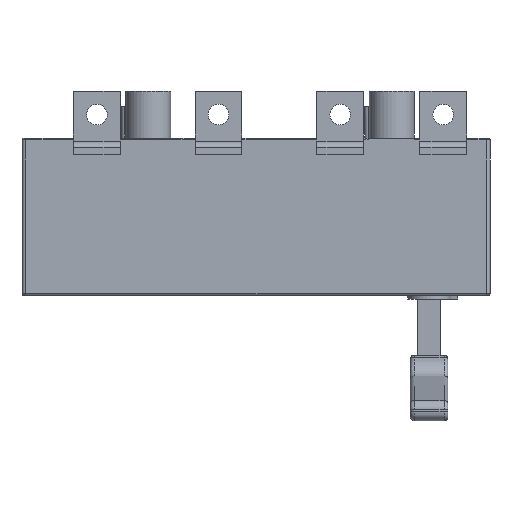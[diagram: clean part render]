
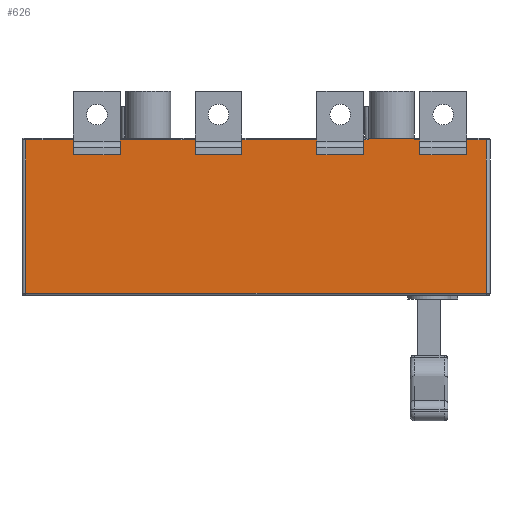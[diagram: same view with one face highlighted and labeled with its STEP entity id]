
A CAD part, front view. The second image highlights one B-rep face of the part: STEP entity #626.
In plain terms, the highlighted planar face has unit normal (0, -1, 0).
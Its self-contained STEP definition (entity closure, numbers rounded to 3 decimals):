
#190=PLANE('',#5526);
#626=ADVANCED_FACE('',(#958),#190,.T.);
#958=FACE_OUTER_BOUND('',#1321,.T.);
#1321=EDGE_LOOP('',(#3460,#3461,#3462,#3463,#3464,#3465,#3466,#3467,#3468,
#3469,#3470,#3471,#3472,#3473,#3474,#3475,#3476,#3477,#3478,#3479,#3480,
#3481,#3482,#3483,#3484,#3485,#3486,#3487,#3488,#3489,#3490,#3491,#3492,
#3493));
#1352=LINE('',#7117,#1777);
#1360=LINE('',#7137,#1785);
#1364=LINE('',#7144,#1789);
#1378=LINE('',#7194,#1803);
#1398=LINE('',#7243,#1823);
#1399=LINE('',#7245,#1824);
#1409=LINE('',#7283,#1834);
#1418=LINE('',#7307,#1843);
#1426=LINE('',#7322,#1851);
#1440=LINE('',#7372,#1865);
#1449=LINE('',#7396,#1874);
#1457=LINE('',#7411,#1882);
#1598=LINE('',#7947,#2023);
#1601=LINE('',#7957,#2026);
#1629=LINE('',#8142,#2054);
#1634=LINE('',#8159,#2059);
#1635=LINE('',#8161,#2060);
#1659=LINE('',#8288,#2084);
#1666=LINE('',#8337,#2091);
#1698=LINE('',#8437,#2123);
#1704=LINE('',#8449,#2129);
#1715=LINE('',#8476,#2140);
#1728=LINE('',#8505,#2153);
#1729=LINE('',#8507,#2154);
#1739=LINE('',#8525,#2164);
#1741=LINE('',#8531,#2166);
#1743=LINE('',#8537,#2168);
#1745=LINE('',#8543,#2170);
#1752=LINE('',#8555,#2177);
#1753=LINE('',#8556,#2178);
#1754=LINE('',#8557,#2179);
#1755=LINE('',#8558,#2180);
#1756=LINE('',#8559,#2181);
#1757=LINE('',#8560,#2182);
#1777=VECTOR('',#5589,1.);
#1785=VECTOR('',#5605,1.);
#1789=VECTOR('',#5613,1.);
#1803=VECTOR('',#5659,1.);
#1823=VECTOR('',#5705,1.);
#1824=VECTOR('',#5708,1.);
#1834=VECTOR('',#5742,1.);
#1843=VECTOR('',#5765,1.);
#1851=VECTOR('',#5779,1.);
#1865=VECTOR('',#5825,1.);
#1874=VECTOR('',#5848,1.);
#1882=VECTOR('',#5862,1.);
#2023=VECTOR('',#6443,1.);
#2026=VECTOR('',#6452,1.);
#2054=VECTOR('',#6598,1.);
#2059=VECTOR('',#6621,1.);
#2060=VECTOR('',#6624,1.);
#2084=VECTOR('',#6764,1.);
#2091=VECTOR('',#6785,1.);
#2123=VECTOR('',#6885,1.);
#2129=VECTOR('',#6897,1.);
#2140=VECTOR('',#6924,1.);
#2153=VECTOR('',#6967,1.);
#2154=VECTOR('',#6970,1.);
#2164=VECTOR('',#6992,1.);
#2166=VECTOR('',#6998,1.);
#2168=VECTOR('',#7004,1.);
#2170=VECTOR('',#7010,1.);
#2177=VECTOR('',#7023,1.);
#2178=VECTOR('',#7024,1.);
#2179=VECTOR('',#7025,1.);
#2180=VECTOR('',#7026,1.);
#2181=VECTOR('',#7027,1.);
#2182=VECTOR('',#7028,1.);
#3460=ORIENTED_EDGE('',*,*,#4180,.F.);
#3461=ORIENTED_EDGE('',*,*,#4199,.F.);
#3462=ORIENTED_EDGE('',*,*,#4718,.T.);
#3463=ORIENTED_EDGE('',*,*,#4710,.T.);
#3464=ORIENTED_EDGE('',*,*,#4535,.F.);
#3465=ORIENTED_EDGE('',*,*,#4525,.T.);
#3466=ORIENTED_EDGE('',*,*,#4534,.T.);
#3467=ORIENTED_EDGE('',*,*,#4689,.T.);
#3468=ORIENTED_EDGE('',*,*,#4719,.F.);
#3469=ORIENTED_EDGE('',*,*,#4070,.F.);
#3470=ORIENTED_EDGE('',*,*,#4057,.T.);
#3471=ORIENTED_EDGE('',*,*,#4066,.F.);
#3472=ORIENTED_EDGE('',*,*,#4720,.T.);
#3473=ORIENTED_EDGE('',*,*,#4690,.T.);
#3474=ORIENTED_EDGE('',*,*,#4661,.T.);
#3475=ORIENTED_EDGE('',*,*,#4654,.F.);
#3476=ORIENTED_EDGE('',*,*,#4590,.F.);
#3477=ORIENTED_EDGE('',*,*,#4675,.T.);
#3478=ORIENTED_EDGE('',*,*,#4603,.T.);
#3479=ORIENTED_EDGE('',*,*,#4701,.T.);
#3480=ORIENTED_EDGE('',*,*,#4453,.F.);
#3481=ORIENTED_EDGE('',*,*,#4118,.T.);
#3482=ORIENTED_EDGE('',*,*,#4094,.T.);
#3483=ORIENTED_EDGE('',*,*,#4119,.T.);
#3484=ORIENTED_EDGE('',*,*,#4458,.T.);
#3485=ORIENTED_EDGE('',*,*,#4704,.T.);
#3486=ORIENTED_EDGE('',*,*,#4721,.F.);
#3487=ORIENTED_EDGE('',*,*,#4148,.F.);
#3488=ORIENTED_EDGE('',*,*,#4137,.F.);
#3489=ORIENTED_EDGE('',*,*,#4156,.F.);
#3490=ORIENTED_EDGE('',*,*,#4722,.T.);
#3491=ORIENTED_EDGE('',*,*,#4707,.T.);
#3492=ORIENTED_EDGE('',*,*,#4723,.F.);
#3493=ORIENTED_EDGE('',*,*,#4191,.F.);
#3597=VERTEX_POINT('',#7118);
#3598=VERTEX_POINT('',#7119);
#3604=VERTEX_POINT('',#7136);
#3605=VERTEX_POINT('',#7140);
#3621=VERTEX_POINT('',#7183);
#3624=VERTEX_POINT('',#7189);
#3626=VERTEX_POINT('',#7195);
#3627=VERTEX_POINT('',#7196);
#3653=VERTEX_POINT('',#7272);
#3656=VERTEX_POINT('',#7278);
#3658=VERTEX_POINT('',#7284);
#3659=VERTEX_POINT('',#7285);
#3685=VERTEX_POINT('',#7361);
#3688=VERTEX_POINT('',#7367);
#3690=VERTEX_POINT('',#7373);
#3691=VERTEX_POINT('',#7374);
#3865=VERTEX_POINT('',#7948);
#3868=VERTEX_POINT('',#7956);
#3896=VERTEX_POINT('',#8035);
#3903=VERTEX_POINT('',#8070);
#3913=VERTEX_POINT('',#8097);
#3917=VERTEX_POINT('',#8139);
#3966=VERTEX_POINT('',#8287);
#3967=VERTEX_POINT('',#8289);
#3974=VERTEX_POINT('',#8319);
#3977=VERTEX_POINT('',#8336);
#4012=VERTEX_POINT('',#8438);
#4015=VERTEX_POINT('',#8450);
#4023=VERTEX_POINT('',#8504);
#4024=VERTEX_POINT('',#8508);
#4027=VERTEX_POINT('',#8530);
#4029=VERTEX_POINT('',#8536);
#4030=VERTEX_POINT('',#8538);
#4032=VERTEX_POINT('',#8544);
#4057=EDGE_CURVE('',#3597,#3598,#1352,.T.);
#4066=EDGE_CURVE('',#3604,#3598,#1360,.T.);
#4070=EDGE_CURVE('',#3597,#3605,#1364,.T.);
#4094=EDGE_CURVE('',#3626,#3627,#1378,.T.);
#4118=EDGE_CURVE('',#3624,#3626,#1398,.T.);
#4119=EDGE_CURVE('',#3627,#3621,#1399,.T.);
#4137=EDGE_CURVE('',#3658,#3659,#1409,.T.);
#4148=EDGE_CURVE('',#3659,#3656,#1418,.T.);
#4156=EDGE_CURVE('',#3653,#3658,#1426,.T.);
#4180=EDGE_CURVE('',#3690,#3691,#1440,.T.);
#4191=EDGE_CURVE('',#3691,#3688,#1449,.T.);
#4199=EDGE_CURVE('',#3685,#3690,#1457,.T.);
#4453=EDGE_CURVE('',#3624,#3865,#1598,.T.);
#4458=EDGE_CURVE('',#3621,#3868,#1601,.T.);
#4525=EDGE_CURVE('',#3917,#3913,#1629,.T.);
#4534=EDGE_CURVE('',#3913,#3896,#1634,.T.);
#4535=EDGE_CURVE('',#3917,#3903,#1635,.T.);
#4590=EDGE_CURVE('',#3966,#3967,#1659,.T.);
#4603=EDGE_CURVE('',#3974,#3977,#1666,.T.);
#4654=EDGE_CURVE('',#3967,#4012,#1698,.T.);
#4661=EDGE_CURVE('',#4015,#4012,#1704,.T.);
#4675=EDGE_CURVE('',#3966,#3974,#1715,.T.);
#4689=EDGE_CURVE('',#3896,#4023,#1728,.T.);
#4690=EDGE_CURVE('',#4024,#4015,#1729,.T.);
#4701=EDGE_CURVE('',#3977,#3865,#1739,.T.);
#4704=EDGE_CURVE('',#3868,#4027,#1741,.T.);
#4707=EDGE_CURVE('',#4030,#4029,#1743,.T.);
#4710=EDGE_CURVE('',#4032,#3903,#1745,.T.);
#4718=EDGE_CURVE('',#3685,#4032,#1752,.T.);
#4719=EDGE_CURVE('',#3605,#4023,#1753,.T.);
#4720=EDGE_CURVE('',#3604,#4024,#1754,.T.);
#4721=EDGE_CURVE('',#3656,#4027,#1755,.T.);
#4722=EDGE_CURVE('',#3653,#4030,#1756,.T.);
#4723=EDGE_CURVE('',#3688,#4029,#1757,.T.);
#5526=AXIS2_PLACEMENT_3D('',#8561,#7029,#7030);
#5589=DIRECTION('',(-1.,0.,0.));
#5605=DIRECTION('',(0.,0.,-1.));
#5613=DIRECTION('',(0.,0.,1.));
#5659=DIRECTION('',(-1.,0.,0.));
#5705=DIRECTION('',(0.,0.,-1.));
#5708=DIRECTION('',(0.,0.,1.));
#5742=DIRECTION('',(1.,0.,0.));
#5765=DIRECTION('',(0.,0.,1.));
#5779=DIRECTION('',(0.,0.,-1.));
#5825=DIRECTION('',(1.,0.,0.));
#5848=DIRECTION('',(0.,0.,1.));
#5862=DIRECTION('',(0.,0.,-1.));
#6443=DIRECTION('',(0.,0.,1.));
#6452=DIRECTION('',(0.,0.,1.));
#6598=DIRECTION('',(1.,0.,0.));
#6621=DIRECTION('',(0.,0.,1.));
#6624=DIRECTION('',(0.,0.,1.));
#6764=DIRECTION('',(0.,0.,-1.));
#6785=DIRECTION('',(0.,0.,-1.));
#6885=DIRECTION('',(1.,0.,0.));
#6897=DIRECTION('',(0.,0.,1.));
#6924=DIRECTION('',(-1.,0.,0.));
#6967=DIRECTION('',(-1.,0.,0.));
#6970=DIRECTION('',(-1.,0.,0.));
#6992=DIRECTION('',(-1.,0.,0.));
#6998=DIRECTION('',(-1.,0.,0.));
#7004=DIRECTION('',(-1.,0.,0.));
#7010=DIRECTION('',(-1.,0.,0.));
#7023=DIRECTION('',(0.,0.,1.));
#7024=DIRECTION('',(0.,0.,1.));
#7025=DIRECTION('',(0.,0.,1.));
#7026=DIRECTION('',(0.,0.,1.));
#7027=DIRECTION('',(0.,0.,1.));
#7028=DIRECTION('',(0.,0.,1.));
#7029=DIRECTION('',(0.,-1.,0.));
#7030=DIRECTION('',(1.,0.,0.));
#7117=CARTESIAN_POINT('',(40.,-52.5,-9.));
#7118=CARTESIAN_POINT('',(40.,-52.5,-9.));
#7119=CARTESIAN_POINT('',(15.,-52.5,-9.));
#7136=CARTESIAN_POINT('',(15.,-52.5,-5.));
#7137=CARTESIAN_POINT('',(15.,-52.5,-9.));
#7140=CARTESIAN_POINT('',(40.,-52.5,-5.));
#7144=CARTESIAN_POINT('',(40.,-52.5,-9.));
#7183=CARTESIAN_POINT('',(-40.,-52.5,-5.));
#7189=CARTESIAN_POINT('',(-15.,-52.5,-5.));
#7194=CARTESIAN_POINT('',(-15.,-52.5,-9.));
#7195=CARTESIAN_POINT('',(-15.,-52.5,-9.));
#7196=CARTESIAN_POINT('',(-40.,-52.5,-9.));
#7243=CARTESIAN_POINT('',(-15.,-52.5,-9.));
#7245=CARTESIAN_POINT('',(-40.,-52.5,-9.));
#7272=CARTESIAN_POINT('',(-105.,-52.5,-5.));
#7278=CARTESIAN_POINT('',(-80.,-52.5,-5.));
#7283=CARTESIAN_POINT('',(-80.,-52.5,-9.));
#7284=CARTESIAN_POINT('',(-105.,-52.5,-9.));
#7285=CARTESIAN_POINT('',(-80.,-52.5,-9.));
#7307=CARTESIAN_POINT('',(-80.,-52.5,-9.));
#7322=CARTESIAN_POINT('',(-105.,-52.5,-9.));
#7361=CARTESIAN_POINT('',(-170.,-52.5,-5.));
#7367=CARTESIAN_POINT('',(-145.,-52.5,-5.));
#7372=CARTESIAN_POINT('',(-157.5,-52.5,-9.));
#7373=CARTESIAN_POINT('',(-170.,-52.5,-9.));
#7374=CARTESIAN_POINT('',(-145.,-52.5,-9.));
#7396=CARTESIAN_POINT('',(-145.,-52.5,-9.));
#7411=CARTESIAN_POINT('',(-170.,-52.5,-9.));
#7947=CARTESIAN_POINT('',(-15.,-52.5,-9.));
#7948=CARTESIAN_POINT('',(-15.,-52.5,-1.));
#7956=CARTESIAN_POINT('',(-40.,-52.5,-1.));
#7957=CARTESIAN_POINT('',(-40.,-52.5,-9.));
#8035=CARTESIAN_POINT('',(50.5,-52.5,-1.));
#8070=CARTESIAN_POINT('',(-195.5,-52.5,-1.));
#8097=CARTESIAN_POINT('',(50.5,-52.5,-83.));
#8139=CARTESIAN_POINT('',(-195.5,-52.5,-83.));
#8142=CARTESIAN_POINT('',(-12.,-52.5,-83.));
#8159=CARTESIAN_POINT('',(50.5,-52.5,-84.));
#8161=CARTESIAN_POINT('',(-195.5,-52.5,-84.));
#8287=CARTESIAN_POINT('',(-12.,-52.5,17.));
#8288=CARTESIAN_POINT('',(-12.,-52.5,25.));
#8289=CARTESIAN_POINT('',(-12.,-52.5,0.));
#8319=CARTESIAN_POINT('',(-12.5,-52.5,17.));
#8336=CARTESIAN_POINT('',(-12.5,-52.5,-1.));
#8337=CARTESIAN_POINT('',(-12.5,-52.5,4.));
#8437=CARTESIAN_POINT('',(50.5,-52.5,0.));
#8438=CARTESIAN_POINT('',(12.,-52.5,0.));
#8449=CARTESIAN_POINT('',(12.,-52.5,4.));
#8450=CARTESIAN_POINT('',(12.,-52.5,-1.));
#8476=CARTESIAN_POINT('',(7.5,-52.5,17.));
#8504=CARTESIAN_POINT('',(40.,-52.5,-1.));
#8505=CARTESIAN_POINT('',(12.,-52.5,-1.));
#8507=CARTESIAN_POINT('',(12.,-52.5,-1.));
#8508=CARTESIAN_POINT('',(15.,-52.5,-1.));
#8525=CARTESIAN_POINT('',(-195.5,-52.5,-1.));
#8530=CARTESIAN_POINT('',(-80.,-52.5,-1.));
#8531=CARTESIAN_POINT('',(-195.5,-52.5,-1.));
#8536=CARTESIAN_POINT('',(-145.,-52.5,-1.));
#8537=CARTESIAN_POINT('',(-195.5,-52.5,-1.));
#8538=CARTESIAN_POINT('',(-105.,-52.5,-1.));
#8543=CARTESIAN_POINT('',(-195.5,-52.5,-1.));
#8544=CARTESIAN_POINT('',(-170.,-52.5,-1.));
#8555=CARTESIAN_POINT('',(-170.,-52.5,-9.));
#8556=CARTESIAN_POINT('',(40.,-52.5,-9.));
#8557=CARTESIAN_POINT('',(15.,-52.5,-9.));
#8558=CARTESIAN_POINT('',(-80.,-52.5,-9.));
#8559=CARTESIAN_POINT('',(-105.,-52.5,-9.));
#8560=CARTESIAN_POINT('',(-145.,-52.5,-9.));
#8561=CARTESIAN_POINT('',(-12.,-52.5,4.));
